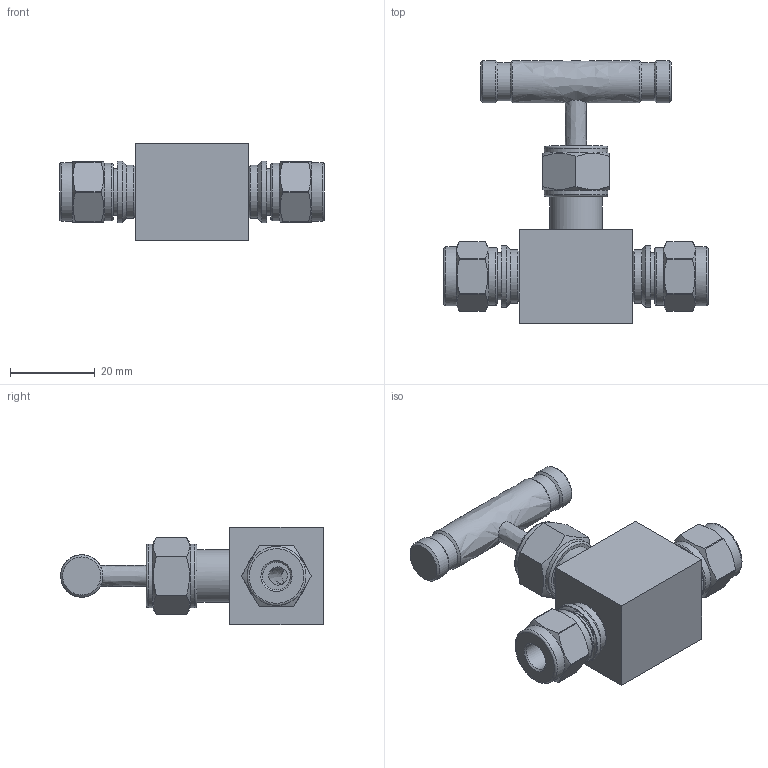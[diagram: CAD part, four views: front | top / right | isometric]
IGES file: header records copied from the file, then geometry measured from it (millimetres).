
Global section: file name: SBNVI-S4; native system: Autodesk Inventor 2016; preprocessor: unknown; author: 배성훈,,11,0; organization: 20150831.040221; date: 20161008.114521; units: millimetre
Bounding box: 62.49 x 62.1 x 23 mm (x, y, z)
Volume: 24635.4 mm3; surface area: 9778 mm2
Topology: 1 solids, 1 shells, 111 faces, 316 edges, 224 vertices
Faces by surface type: bspline 111
